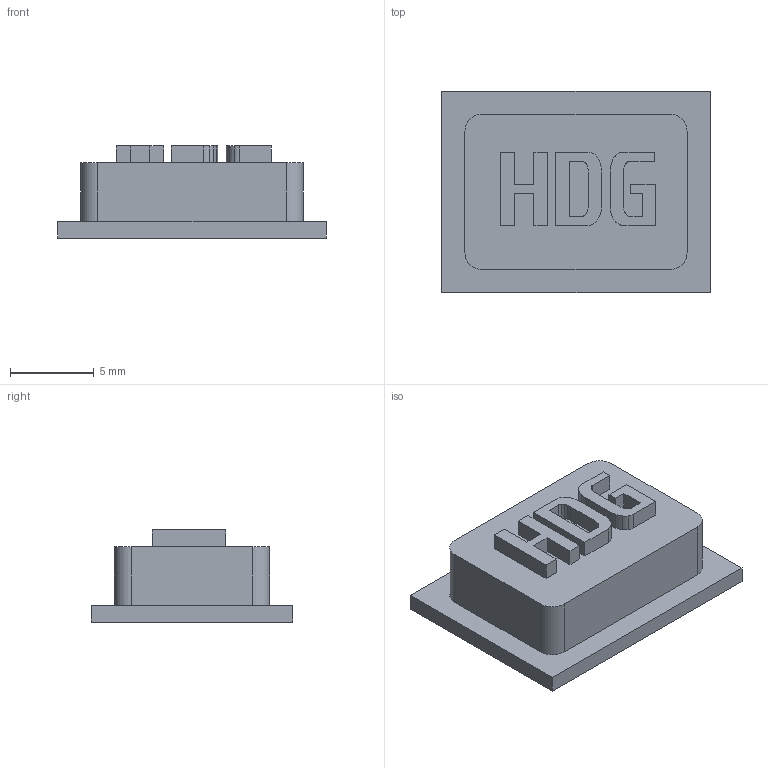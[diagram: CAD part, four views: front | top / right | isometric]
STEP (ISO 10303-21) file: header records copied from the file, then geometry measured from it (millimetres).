
FILE_DESCRIPTION(('FreeCAD Model'),'2;1');
FILE_NAME('E:/CAD Designs/Garmin/Final/CAD files/STEP/HDG.step', '2021-02-27T12:57:56',('Author'),(''), 'Open CASCADE STEP processor 7.3','FreeCAD','Unknown');
FILE_SCHEMA(('AUTOMOTIVE_DESIGN { 1 0 10303 214 1 1 1 1 }'));
Length unit declared in the file: millimetre
Products named in the file (2): Body; Extrude
Bounding box: 16 x 12 x 5.5 mm (x, y, z)
Volume: 641 mm3; surface area: 703.5 mm2
Topology: 4 solids, 4 shells, 85 faces, 228 edges, 152 vertices
Faces by surface type: plane 49, extrusion 32, cylinder 4
Entity records: 5701 total; most frequent: CARTESIAN_POINT 1254, DIRECTION 702, VECTOR 572, LINE 540, ORIENTED_EDGE 456, PCURVE 456, DEFINITIONAL_REPRESENTATION 456, EDGE_CURVE 228
